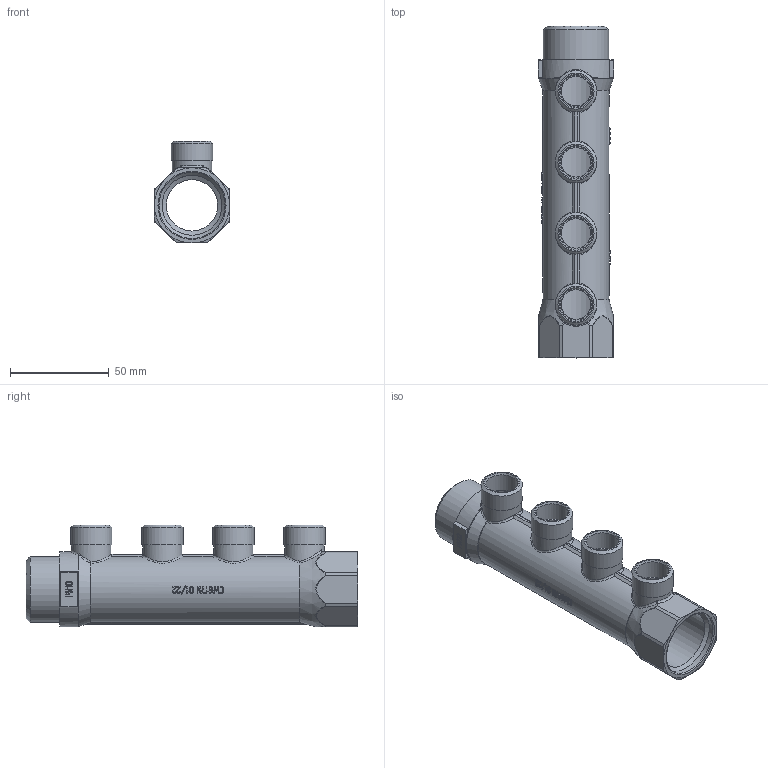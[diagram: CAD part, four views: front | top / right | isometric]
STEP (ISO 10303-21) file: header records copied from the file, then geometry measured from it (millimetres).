
FILE_DESCRIPTION(('STEP AP203'), '1');
FILE_NAME('ÂÐ.732182.027 - VTc.500.N.0604 Êîë. G1 (4õG1-2) L168', '2024-07-25T08:43:04', ('IT'), ('VESTA'), 'C3D Converter', 'C3D Toolkit', '');
FILE_SCHEMA(('CONFIG_CONTROL_DESIGN'));
Length unit declared in the file: millimetre
Products named in the file (1): ВР.732182.027
Bounding box: 38 x 168 x 51.5 mm (x, y, z)
Volume: 48896.6 mm3; surface area: 41817.2 mm2
Topology: 1 solids, 1 shells, 702 faces, 1933 edges, 1270 vertices
Faces by surface type: extrusion 340, plane 243, cylinder 52, bspline 30, cone 22, torus 15
Full cylindrical faces by diameter (mm): 15 x4, 16.1 x4, 20 x4, 20.955 x4, 26 x1, 30.292 x1, 33.249 x1, 33.5 x1, 38 x1
Entity records: 34856 total; most frequent: CARTESIAN_POINT 19041, ORIENTED_EDGE 3788, DIRECTION 2120, EDGE_CURVE 1894, VERTEX_POINT 1270, B_SPLINE_CURVE_WITH_KNOTS 1161, VECTOR 1120, EDGE_LOOP 788
